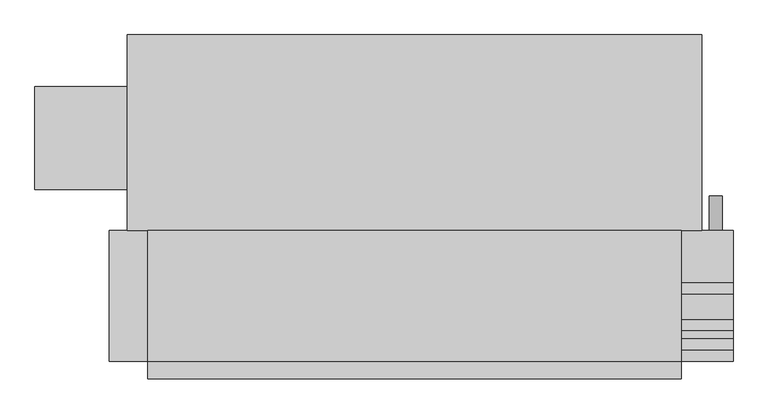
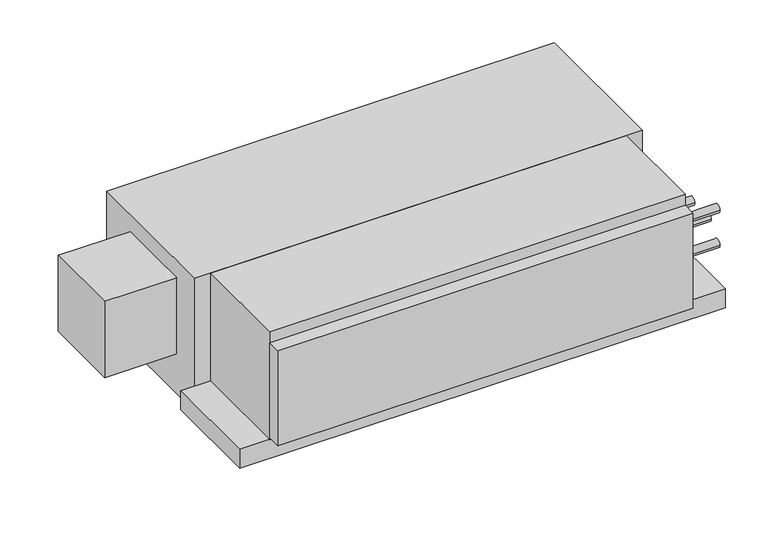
"""IFC4 building model written with IfcOpenShell, lengths in millimetres: proxy geometry, Concealed_Horizontal_Fan_Coil_Unit_With_Plenum_-_42CEA_-_CARRIER_-_4-Pipe_RH_2022 : Size 06 - 277v/60Hz/1Ph - 4/1 Coil."""

from ifc_helpers import new_model, si_unit, point, frame, frame_2d, origin, place, context, project, spatial, polyline, circle_curve, trimmed, segment, composite_curve, outline, extrude, source, transform, mapped, element, save


def mechanical_equipment_919ceedd(model_context):
    return source(origin(), model_context, "Body", "SweptSolid", [
        extrude(outline(composite_curve([segment(trimmed(circle_curve(frame_2d((-241.3, 596.9)), 9.525), [point((-241.3, 587.375))], [point((-241.3, 606.425))], False, "CARTESIAN"), True, "CONTINUOUS"), segment(trimmed(circle_curve(frame_2d((-241.3, 596.9)), 9.525), [point((-241.3, 606.425))], [point((-241.3, 587.375))], False, "CARTESIAN"), True, "CONTINUOUS")], self_intersect=False)), frame((0.0, -141.2875, 0.0), z_axis=(0.0, 1.0, 0.0), x_axis=(0.0, 0.0, 1.0)), (0.0, 0.0, 1.0), 50.8),
        extrude(outline(composite_curve([segment(trimmed(circle_curve(frame_2d((-309.5625, -69.85)), 7.9375), [point((-317.5, -69.85))], [point((-301.625, -69.85))], False, "CARTESIAN"), True, "CONTINUOUS"), segment(trimmed(circle_curve(frame_2d((-309.5625, -69.85)), 7.9375), [point((-301.625, -69.85))], [point((-317.5, -69.85))], False, "CARTESIAN"), True, "CONTINUOUS")], self_intersect=False)), frame((546.1, 0.0, 0.0), z_axis=(1.0, 0.0, 0.0), x_axis=(0.0, 1.0, 0.0)), (0.0, 0.0, 1.0), 76.2),
        extrude(outline(composite_curve([segment(trimmed(circle_curve(frame_2d((-309.5625, -139.7)), 7.9375), [point((-317.5, -139.7))], [point((-301.625, -139.7))], False, "CARTESIAN"), True, "CONTINUOUS"), segment(trimmed(circle_curve(frame_2d((-309.5625, -139.7)), 7.9375), [point((-301.625, -139.7))], [point((-317.5, -139.7))], False, "CARTESIAN"), True, "CONTINUOUS")], self_intersect=False)), frame((546.1, 0.0, 0.0), z_axis=(1.0, 0.0, 0.0), x_axis=(0.0, 1.0, 0.0)), (0.0, 0.0, 1.0), 76.2),
        extrude(outline(composite_curve([segment(trimmed(circle_curve(frame_2d((-227.0125, -104.775)), 7.9375), [point((-234.95, -104.775))], [point((-219.075, -104.775))], False, "CARTESIAN"), True, "CONTINUOUS"), segment(trimmed(circle_curve(frame_2d((-227.0125, -104.775)), 7.9375), [point((-219.075, -104.775))], [point((-234.95, -104.775))], False, "CARTESIAN"), True, "CONTINUOUS")], self_intersect=False)), frame((546.1, 0.0, 0.0), z_axis=(1.0, 0.0, 0.0), x_axis=(0.0, 1.0, 0.0)), (0.0, 0.0, 1.0), 76.2),
        extrude(outline(composite_curve([segment(trimmed(circle_curve(frame_2d((-280.9875, -104.775)), 7.9375), [point((-288.925, -104.775))], [point((-273.05, -104.775))], False, "CARTESIAN"), True, "CONTINUOUS"), segment(trimmed(circle_curve(frame_2d((-280.9875, -104.775)), 7.9375), [point((-273.05, -104.775))], [point((-288.925, -104.775))], False, "CARTESIAN"), True, "CONTINUOUS")], self_intersect=False)), frame((546.1, 0.0, 0.0), z_axis=(1.0, 0.0, 0.0), x_axis=(0.0, 1.0, 0.0)), (0.0, 0.0, 1.0), 76.2),
        extrude(outline(polyline([(546.1, -334.9625), (546.1, -360.3625), (-241.3, -360.3625), (-241.3, -334.9625), (546.1, -334.9625)])), frame((0.0, 0.0, -212.725), z_axis=(0.0, 0.0, 1.0), x_axis=(1.0, 0.0, 0.0)), (0.0, 0.0, 1.0), 190.5),
        extrude(outline(polyline([(546.1, -334.9625), (-241.3, -334.9625), (-241.3, -141.2875), (546.1, -141.2875), (546.1, -334.9625)])), frame((0.0, 0.0, -215.9), z_axis=(0.0, 0.0, 1.0), x_axis=(1.0, 0.0, 0.0)), (0.0, 0.0, 1.0), 215.9),
        extrude(outline(polyline([(622.3, -141.2875), (622.3, -334.9625), (-298.45, -334.9625), (-298.45, -141.2875), (622.3, -141.2875)])), frame((0.0, 0.0, -254.0), z_axis=(0.0, 0.0, 1.0), x_axis=(1.0, 0.0, 0.0)), (0.0, 0.0, 1.0), 38.1),
        extrude(outline(polyline([(-407.9875, -80.9625), (-407.9875, 71.4375), (-271.4625, 71.4375), (-271.4625, -80.9625), (-407.9875, -80.9625)])), frame((0.0, 0.0, -187.325), z_axis=(0.0, 0.0, 1.0), x_axis=(1.0, 0.0, 0.0)), (0.0, 0.0, 1.0), 152.4),
        extrude(outline(polyline([(-271.4625, 147.6375), (576.2625, 147.6375), (576.2625, -141.2875), (-271.4625, -141.2875), (-271.4625, 147.6375)])), frame((0.0, 0.0, -266.7), z_axis=(0.0, 0.0, 1.0), x_axis=(1.0, 0.0, 0.0)), (0.0, 0.0, 1.0), 266.7),
    ])


if __name__ == "__main__":
    model = new_model("IFC4")
    model_context = context("Model", 3, world=origin())
    ifc_project = project(units=[si_unit("LENGTHUNIT", "METRE", prefix="MILLI")], contexts=[model_context])
    site = spatial("IfcSite", under=ifc_project)
    building = spatial("IfcBuilding", under=site)
    placement = place(None, origin())
    mechanical_equipment_shape = mechanical_equipment_919ceedd(model_context)
    element("IfcBuildingElementProxy", 1, Name="Concealed_Horizontal_Fan_Coil_Unit_With_Plenum_-_42CEA_-_CARRIER_-_4-Pipe_RH_2022 : Size 06 - 277v/60Hz/1Ph - 4/1 Coil", ObjectType="Concealed_Horizontal_Fan_Coil_Unit_With_Plenum_-_42CEA_-_CARRIER_-_4-Pipe_RH_2022 : Size 06 - 277v/60Hz/1Ph - 4/1 Coil", at=placement, inside=building, context=model_context, shape_type="MappedRepresentation", body=[
        mapped(mechanical_equipment_shape, transform((0.0, 0.0, 0.0), x_axis=(1.0, 0.0, 0.0), y_axis=(0.0, 1.0, 0.0), z_axis=(0.0, 0.0, 1.0))),
    ])
    save(model, "model.ifc")
